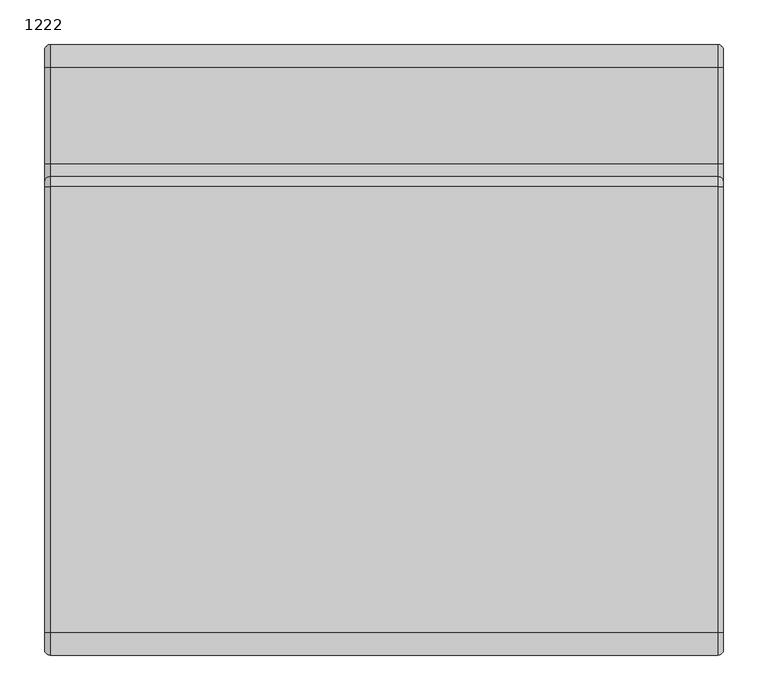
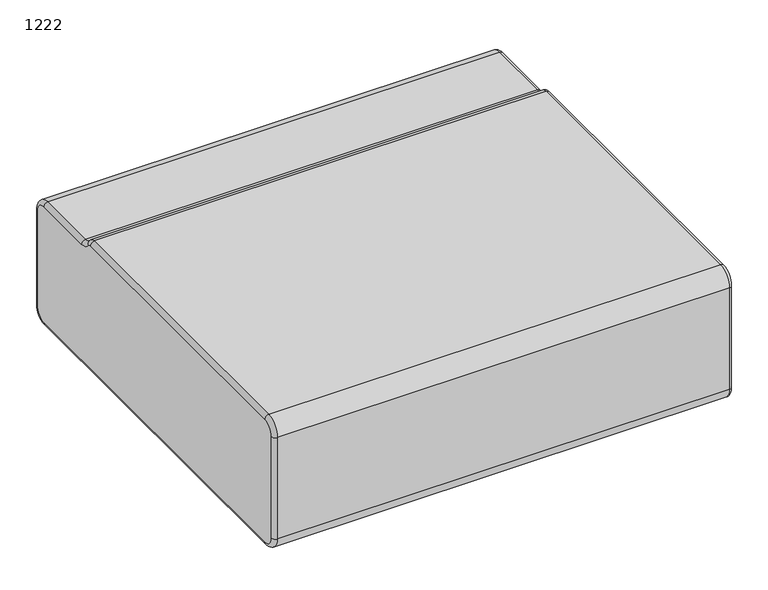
"""IFC4 building model written with IfcOpenShell, lengths in millimetres: furniture geometry, Laguna-Modular-Hideout-ERG : 1222."""

from ifc_helpers import new_model, si_unit, point, frame, origin, place, context, project, spatial, polyline, circle_curve, ellipse_curve, trimmed, source, transform, mapped, element, save
from ifc_brep_helpers import plane_surface, cylinder_surface, revolved_surface, advanced_brep


def furniture_1222_0b3f2822(model_context):
    return source(origin(), model_context, "Body", "AdvancedBrep", [
        advanced_brep(
        [(-4618.2921763, 1208.7558502, 203.2), (-4624.6421763, 1208.7558502, 209.55), (-4624.6421763, 1227.8058502, 228.6), (-4618.2921763, 1234.1558502, 228.6), (-4624.6421763, 1227.8058502, 393.7), (-4618.2921763, 1234.1558502, 393.7), (-4624.6421763, 1208.7558502, 412.75), (-4618.2921763, 1208.7558502, 419.1), (-4624.6421763, 1100.3633388, 412.75), (-4618.2921763, 1100.3633388, 419.1), (-4624.6421763, 1081.0629451, 422.2976649), (-4618.2921763, 1086.1103079, 426.1507973), (-4624.6421763, 1074.6905694, 425.45), (-4618.2921763, 1074.6905694, 431.8), (-4624.6421763, 573.7558502, 425.45), (-4618.2921763, 573.7558502, 431.8), (-4624.6421763, 554.7058502, 406.4), (-4618.2921763, 548.3558502, 406.4), (-4624.6421763, 554.7058502, 228.6), (-4618.2921763, 548.3558502, 228.6), (-4624.6421763, 573.7558502, 209.55), (-4618.2921763, 573.7558502, 203.2), (-3868.9921763, 1074.6905694, 431.8), (-3868.9921763, 573.7558502, 431.8), (-3868.9921763, 548.3558502, 406.4), (-3868.9921763, 548.3558502, 228.6), (-3868.9921763, 573.7558502, 203.2), (-3868.9921763, 1208.7558502, 203.2), (-3868.9921763, 1234.1558502, 228.6), (-3868.9921763, 1234.1558502, 393.7), (-3868.9921763, 1208.7558502, 419.1), (-3868.9921763, 1100.3633388, 419.1), (-3868.9921763, 1086.1103079, 426.1507973), (-3862.6421763, 1208.7558502, 209.55), (-3862.6421763, 1227.8058502, 228.6), (-3862.6421763, 1227.8058502, 393.7), (-3862.6421763, 1208.7558502, 412.75), (-3862.6421763, 1100.3633388, 412.75), (-3862.6421763, 1081.0629451, 422.2976649), (-3862.6421763, 1074.6905694, 425.45), (-3862.6421763, 573.7558502, 425.45), (-3862.6421763, 554.7058502, 406.4), (-3862.6421763, 554.7058502, 228.6), (-3862.6421763, 573.7558502, 209.55)],
        [
            (0, 1, circle_curve(frame((-4618.2921763, 1208.7558502, 209.55), z_axis=(0.0, 1.0, 0.0), x_axis=(0.0, 0.0, 1.0)), 6.35)),
            (1, 2, circle_curve(frame((-4624.6421763, 1208.7558502, 228.6), z_axis=(1.0, 0.0, 0.0), x_axis=(0.0, 0.0, -1.0)), 19.05)),
            (2, 3, circle_curve(frame((-4618.2921763, 1227.8058502, 228.6), z_axis=(0.0, 0.0, -1.0), x_axis=(0.0, -1.0, 0.0)), 6.35)),
            (3, 0, circle_curve(frame((-4618.2921763, 1208.7558502, 228.6), z_axis=(-1.0, 0.0, 0.0), x_axis=(0.0, 0.0, -1.0)), 25.4)),
            (2, 4),
            (4, 5, circle_curve(frame((-4618.2921763, 1227.8058502, 393.7), z_axis=(0.0, 0.0, -1.0), x_axis=(0.0, -1.0, 0.0)), 6.35)),
            (5, 3),
            (4, 6, circle_curve(frame((-4624.6421763, 1208.7558502, 393.7), z_axis=(1.0, 0.0, 0.0), x_axis=(0.0, 1.0, 0.0)), 19.05)),
            (6, 7, circle_curve(frame((-4618.2921763, 1208.7558502, 412.75), z_axis=(0.0, 1.0, 0.0), x_axis=(0.0, 0.0, -1.0)), 6.35)),
            (7, 5, circle_curve(frame((-4618.2921763, 1208.7558502, 393.7), z_axis=(-1.0, 0.0, 0.0), x_axis=(0.0, 1.0, 0.0)), 25.4)),
            (6, 8),
            (8, 9, circle_curve(frame((-4618.2921763, 1100.3633388, 412.75), z_axis=(0.0, 1.0, 0.0), x_axis=(0.0, 0.0, -1.0)), 6.35)),
            (9, 7),
            (8, 10, circle_curve(frame((-4624.6421763, 1100.3633388, 437.0314921), z_axis=(-1.0, 0.0, 0.0), x_axis=(0.0, 0.0, -1.0)), 24.2814921)),
            (10, 11, circle_curve(frame((-4618.2921763, 1081.0629451, 422.2976649), z_axis=(0.0, 0.6067924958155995, -0.7948602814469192), x_axis=(0.0, -0.7948602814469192, -0.6067924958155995)), 6.35)),
            (11, 9, circle_curve(frame((-4618.2921763, 1100.3633388, 437.0314921), z_axis=(1.0, 0.0, 0.0), x_axis=(0.0, 0.0, -1.0)), 17.9314921)),
            (10, 12, circle_curve(frame((-4624.6421763, 1074.6905694, 417.4330241), z_axis=(1.0, 0.0, 0.0), x_axis=(0.0, 0.7948602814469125, 0.6067924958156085)), 8.0169759)),
            (12, 13, circle_curve(frame((-4618.2921763, 1074.6905694, 425.45), z_axis=(0.0, 1.0, 0.0), x_axis=(0.0, 0.0, -1.0)), 6.35)),
            (13, 11, circle_curve(frame((-4618.2921763, 1074.6905694, 417.4330241), z_axis=(-1.0, 0.0, 0.0), x_axis=(0.0, 0.7948602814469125, 0.6067924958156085)), 14.3669759)),
            (12, 14),
            (14, 15, circle_curve(frame((-4618.2921763, 573.7558502, 425.45), z_axis=(0.0, 1.0, 0.0), x_axis=(0.0, 0.0, -1.0)), 6.35)),
            (15, 13),
            (14, 16, circle_curve(frame((-4624.6421763, 573.7558502, 406.4), z_axis=(1.0, 0.0, 0.0), x_axis=(0.0, 0.0, 1.0)), 19.05)),
            (16, 17, circle_curve(frame((-4618.2921763, 554.7058502, 406.4), z_axis=(0.0, 0.0, 1.0), x_axis=(0.0, 1.0, 0.0)), 6.35)),
            (17, 15, circle_curve(frame((-4618.2921763, 573.7558502, 406.4), z_axis=(-1.0, 0.0, 0.0), x_axis=(0.0, 0.0, 1.0)), 25.4)),
            (16, 18),
            (18, 19, circle_curve(frame((-4618.2921763, 554.7058502, 228.6), z_axis=(0.0, 0.0, 1.0), x_axis=(0.0, 1.0, 0.0)), 6.35)),
            (19, 17),
            (18, 20, circle_curve(frame((-4624.6421763, 573.7558502, 228.6), z_axis=(1.0, 0.0, 0.0), x_axis=(0.0, -1.0, 0.0)), 19.05)),
            (20, 21, circle_curve(frame((-4618.2921763, 573.7558502, 209.55), z_axis=(0.0, -1.0, 0.0), x_axis=(0.0, 0.0, 1.0)), 6.35)),
            (21, 19, circle_curve(frame((-4618.2921763, 573.7558502, 228.6), z_axis=(-1.0, 0.0, 0.0), x_axis=(0.0, -1.0, 0.0)), 25.4)),
            (0, 21),
            (20, 1),
            (22, 13),
            (15, 23),
            (23, 22),
            (17, 24),
            (24, 23, circle_curve(frame((-3868.9921763, 573.7558502, 406.4), z_axis=(-1.0, 0.0, 0.0), x_axis=(0.0, 1.0, 0.0)), 25.4)),
            (19, 25),
            (25, 24),
            (21, 26),
            (26, 25, circle_curve(frame((-3868.9921763, 573.7558502, 228.6), z_axis=(-1.0, 0.0, 0.0), x_axis=(0.0, 1.0, 0.0)), 25.4)),
            (0, 27),
            (27, 26),
            (3, 28),
            (28, 27, circle_curve(frame((-3868.9921763, 1208.7558502, 228.6), z_axis=(-1.0, 0.0, 0.0), x_axis=(0.0, 1.0, 0.0)), 25.4)),
            (5, 29),
            (29, 28),
            (7, 30),
            (30, 29, circle_curve(frame((-3868.9921763, 1208.7558502, 393.7), z_axis=(-1.0, 0.0, 0.0), x_axis=(0.0, 1.0, 0.0)), 25.4)),
            (9, 31),
            (31, 30),
            (11, 32),
            (32, 31, circle_curve(frame((-3868.9921763, 1100.3633388, 437.0314921), z_axis=(1.0, 0.0, 0.0), x_axis=(0.0, 1.0, 0.0)), 17.9314921)),
            (22, 32, circle_curve(frame((-3868.9921763, 1074.6905694, 417.4330241), z_axis=(-1.0, 0.0, 0.0), x_axis=(0.0, 1.0, 0.0)), 14.3669759)),
            (33, 27, circle_curve(frame((-3868.9921763, 1208.7558502, 209.55), z_axis=(0.0, 1.0, 0.0), x_axis=(0.0, 0.0, 1.0)), 6.35)),
            (28, 34, circle_curve(frame((-3868.9921763, 1227.8058502, 228.6), z_axis=(0.0, 0.0, -1.0), x_axis=(0.0, -1.0, 0.0)), 6.35)),
            (34, 33, circle_curve(frame((-3862.6421763, 1208.7558502, 228.6), z_axis=(-1.0, 0.0, 0.0), x_axis=(0.0, 0.0, -1.0)), 19.05)),
            (29, 35, circle_curve(frame((-3868.9921763, 1227.8058502, 393.7), z_axis=(0.0, 0.0, -1.0), x_axis=(0.0, -1.0, 0.0)), 6.35)),
            (35, 34),
            (30, 36, circle_curve(frame((-3868.9921763, 1208.7558502, 412.75), z_axis=(0.0, 1.0, 0.0), x_axis=(0.0, 0.0, -1.0)), 6.35)),
            (36, 35, circle_curve(frame((-3862.6421763, 1208.7558502, 393.7), z_axis=(-1.0, 0.0, 0.0), x_axis=(0.0, 1.0, 0.0)), 19.05)),
            (31, 37, circle_curve(frame((-3868.9921763, 1100.3633388, 412.75), z_axis=(0.0, 1.0, 0.0), x_axis=(0.0, 0.0, -1.0)), 6.35)),
            (37, 36),
            (32, 38, circle_curve(frame((-3868.9921763, 1081.0629451, 422.2976649), z_axis=(0.0, 0.606792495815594, -0.7948602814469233), x_axis=(0.0, -0.7948602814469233, -0.606792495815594)), 6.35)),
            (38, 37, circle_curve(frame((-3862.6421763, 1100.3633388, 437.0314921), z_axis=(1.0, 0.0, 0.0), x_axis=(0.0, 0.0, -1.0)), 24.2814921)),
            (22, 39, circle_curve(frame((-3868.9921763, 1074.6905694, 425.45), z_axis=(0.0, 1.0, 0.0), x_axis=(0.0, 0.0, -1.0)), 6.35)),
            (39, 38, circle_curve(frame((-3862.6421763, 1074.6905694, 417.4330241), z_axis=(-1.0, 0.0, 0.0), x_axis=(0.0, 0.7948602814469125, 0.6067924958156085)), 8.0169759)),
            (23, 40, circle_curve(frame((-3868.9921763, 573.7558502, 425.45), z_axis=(0.0, 1.0, 0.0), x_axis=(0.0, 0.0, -1.0)), 6.35)),
            (40, 39),
            (24, 41, circle_curve(frame((-3868.9921763, 554.7058502, 406.4), z_axis=(0.0, 0.0, 1.0), x_axis=(0.0, 1.0, 0.0)), 6.35)),
            (41, 40, circle_curve(frame((-3862.6421763, 573.7558502, 406.4), z_axis=(-1.0, 0.0, 0.0), x_axis=(0.0, 0.0, 1.0)), 19.05)),
            (25, 42, circle_curve(frame((-3868.9921763, 554.7058502, 228.6), z_axis=(0.0, 0.0, 1.0), x_axis=(0.0, 1.0, 0.0)), 6.35)),
            (42, 41),
            (26, 43, circle_curve(frame((-3868.9921763, 573.7558502, 209.55), z_axis=(0.0, -1.0, 0.0), x_axis=(0.0, 0.0, 1.0)), 6.35)),
            (43, 42, circle_curve(frame((-3862.6421763, 573.7558502, 228.6), z_axis=(-1.0, 0.0, 0.0), x_axis=(0.0, -1.0, 0.0)), 19.05)),
            (33, 43),
        ],
        [
            revolved_surface(trimmed(ellipse_curve(frame((-4618.2921763, 1208.7558502, 209.55), z_axis=(0.0, -1.0, 0.0), x_axis=(0.0, 0.0, 1.0)), 6.35, 6.35), [point((-4624.6421763, 1208.7558502, 209.55))], [point((-4618.2921763, 1208.7558502, 203.2))], True, "CARTESIAN"), (-4618.2921763, 1208.7558502, 228.6), (1.0, 0.0, 0.0)),
            cylinder_surface(frame((-4618.2921763, 1227.8058502, 228.6), z_axis=(0.0, 0.0, -1.0), x_axis=(0.0, -1.0, 0.0)), 6.35),
            revolved_surface(trimmed(ellipse_curve(frame((-4618.2921763, 1227.8058502, 393.7), z_axis=(0.0, 0.0, -1.0), x_axis=(0.0, -1.0, 0.0)), 6.35, 6.35), [point((-4624.6421763, 1227.8058502, 393.7))], [point((-4618.2921763, 1234.1558502, 393.7))], True, "CARTESIAN"), (-4618.2921763, 1208.7558502, 393.7), (1.0, 0.0, 0.0)),
            cylinder_surface(frame((-4618.2921763, 1208.7558502, 412.75), z_axis=(0.0, 1.0, 0.0), x_axis=(0.0, 0.0, -1.0)), 6.35),
            revolved_surface(trimmed(ellipse_curve(frame((-4618.2921763, 1100.3633388, 412.75), z_axis=(0.0, 1.0, 0.0), x_axis=(0.0, 0.0, -1.0)), 6.35, 6.35), [point((-4624.6421763, 1100.3633388, 412.75))], [point((-4618.2921763, 1100.3633388, 419.1))], True, "CARTESIAN"), (-4618.2921763, 1100.3633388, 437.0314921), (-1.0, 0.0, 0.0)),
            revolved_surface(trimmed(ellipse_curve(frame((-4618.2921763, 1081.0629451, 422.2976649), z_axis=(0.0, 0.6067924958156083, -0.7948602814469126), x_axis=(0.0, -0.7948602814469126, -0.6067924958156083)), 6.35, 6.35), [point((-4624.6421763, 1081.0629451, 422.2976649))], [point((-4618.2921763, 1086.1103079, 426.1507973))], True, "CARTESIAN"), (-4618.2921763, 1074.6905694, 417.4330241), (1.0, 0.0, 0.0)),
            cylinder_surface(frame((-4618.2921763, 1074.6905694, 425.45), z_axis=(0.0, 1.0, 0.0), x_axis=(0.0, 0.0, -1.0)), 6.35),
            revolved_surface(trimmed(ellipse_curve(frame((-4618.2921763, 573.7558502, 425.45), z_axis=(0.0, 1.0, 0.0), x_axis=(0.0, 0.0, -1.0)), 6.35, 6.35), [point((-4624.6421763, 573.7558502, 425.45))], [point((-4618.2921763, 573.7558502, 431.8))], True, "CARTESIAN"), (-4618.2921763, 573.7558502, 406.4), (1.0, 0.0, 0.0)),
            cylinder_surface(frame((-4618.2921763, 554.7058502, 406.4), z_axis=(0.0, 0.0, 1.0), x_axis=(0.0, 1.0, 0.0)), 6.35),
            revolved_surface(trimmed(ellipse_curve(frame((-4618.2921763, 554.7058502, 228.6), z_axis=(0.0, 0.0, 1.0), x_axis=(0.0, 1.0, 0.0)), 6.35, 6.35), [point((-4624.6421763, 554.7058502, 228.6))], [point((-4618.2921763, 548.3558502, 228.6))], True, "CARTESIAN"), (-4618.2921763, 573.7558502, 228.6), (1.0, 0.0, 0.0)),
            cylinder_surface(frame((-4618.2921763, 573.7558502, 209.55), z_axis=(0.0, -1.0, 0.0), x_axis=(0.0, 0.0, 1.0)), 6.35),
            plane_surface(frame((-3868.9921763, 1074.6905694, 431.8), z_axis=(0.0, 0.0, 1.0), x_axis=(-1.0, 0.0, 0.0))),
            cylinder_surface(frame((-4618.2921763, 573.7558502, 406.4), z_axis=(1.0, 0.0, 0.0), x_axis=(0.0, 1.0, 0.0)), 25.4),
            plane_surface(frame((-3868.9921763, 548.3558502, 406.4), z_axis=(0.0, -1.0, 0.0), x_axis=(-1.0, 0.0, 0.0))),
            cylinder_surface(frame((-4618.2921763, 573.7558502, 228.6), z_axis=(1.0, 0.0, 0.0), x_axis=(0.0, 1.0, 0.0)), 25.4),
            plane_surface(frame((-3868.9921763, 573.7558502, 203.2), z_axis=(0.0, 0.0, -1.0), x_axis=(-1.0, 0.0, 0.0))),
            cylinder_surface(frame((-4618.2921763, 1208.7558502, 228.6), z_axis=(1.0, 0.0, 0.0), x_axis=(0.0, 1.0, 0.0)), 25.4),
            plane_surface(frame((-3868.9921763, 1234.1558502, 228.6), z_axis=(0.0, 1.0, 0.0), x_axis=(-1.0, 0.0, 0.0))),
            cylinder_surface(frame((-4618.2921763, 1208.7558502, 393.7), z_axis=(1.0, 0.0, 0.0), x_axis=(0.0, 1.0, 0.0)), 25.4),
            plane_surface(frame((-3868.9921763, 1208.7558502, 419.1), z_axis=(0.0, 0.0, 1.0), x_axis=(-1.0, 0.0, 0.0))),
            revolved_surface(polyline([(-4618.2921763, 1118.2948309, 437.0314921), (-3868.9921763, 1118.2948309, 437.0314921)]), (-4618.2921763, 1100.3633388, 437.0314921), (-1.0, 0.0, 0.0)),
            cylinder_surface(frame((-4618.2921763, 1074.6905694, 417.4330241), z_axis=(1.0, 0.0, 0.0), x_axis=(0.0, 1.0, 0.0)), 14.3669759),
            revolved_surface(trimmed(ellipse_curve(frame((-3868.9921763, 1208.7558502, 209.55), z_axis=(0.0, -1.0, 0.0), x_axis=(0.0, 0.0, 1.0)), 6.35, 6.35), [point((-3868.9921763, 1208.7558502, 203.2))], [point((-3862.6421763, 1208.7558502, 209.55))], True, "CARTESIAN"), (-3868.9921763, 1208.7558502, 228.6), (1.0, 0.0, 0.0)),
            cylinder_surface(frame((-3868.9921763, 1227.8058502, 228.6), z_axis=(0.0, 0.0, -1.0), x_axis=(0.0, -1.0, 0.0)), 6.35),
            revolved_surface(trimmed(ellipse_curve(frame((-3868.9921763, 1227.8058502, 393.7), z_axis=(0.0, 0.0, -1.0), x_axis=(0.0, -1.0, 0.0)), 6.35, 6.35), [point((-3868.9921763, 1234.1558502, 393.7))], [point((-3862.6421763, 1227.8058502, 393.7))], True, "CARTESIAN"), (-3868.9921763, 1208.7558502, 393.7), (1.0, 0.0, 0.0)),
            cylinder_surface(frame((-3868.9921763, 1208.7558502, 412.75), z_axis=(0.0, 1.0, 0.0), x_axis=(0.0, 0.0, -1.0)), 6.35),
            revolved_surface(trimmed(ellipse_curve(frame((-3868.9921763, 1100.3633388, 412.75), z_axis=(0.0, 1.0, 0.0), x_axis=(0.0, 0.0, -1.0)), 6.35, 6.35), [point((-3868.9921763, 1100.3633388, 419.1))], [point((-3862.6421763, 1100.3633388, 412.75))], True, "CARTESIAN"), (-3868.9921763, 1100.3633388, 437.0314921), (-1.0, 0.0, 0.0)),
            revolved_surface(trimmed(ellipse_curve(frame((-3868.9921763, 1081.0629451, 422.2976649), z_axis=(0.0, 0.6067924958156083, -0.7948602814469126), x_axis=(0.0, -0.7948602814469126, -0.6067924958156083)), 6.35, 6.35), [point((-3868.9921763, 1086.1103079, 426.1507973))], [point((-3862.6421763, 1081.0629451, 422.2976649))], True, "CARTESIAN"), (-3868.9921763, 1074.6905694, 417.4330241), (1.0, 0.0, 0.0)),
            cylinder_surface(frame((-3868.9921763, 1074.6905694, 425.45), z_axis=(0.0, 1.0, 0.0), x_axis=(0.0, 0.0, -1.0)), 6.35),
            revolved_surface(trimmed(ellipse_curve(frame((-3868.9921763, 573.7558502, 425.45), z_axis=(0.0, 1.0, 0.0), x_axis=(0.0, 0.0, -1.0)), 6.35, 6.35), [point((-3868.9921763, 573.7558502, 431.8))], [point((-3862.6421763, 573.7558502, 425.45))], True, "CARTESIAN"), (-3868.9921763, 573.7558502, 406.4), (1.0, 0.0, 0.0)),
            cylinder_surface(frame((-3868.9921763, 554.7058502, 406.4), z_axis=(0.0, 0.0, 1.0), x_axis=(0.0, 1.0, 0.0)), 6.35),
            revolved_surface(trimmed(ellipse_curve(frame((-3868.9921763, 554.7058502, 228.6), z_axis=(0.0, 0.0, 1.0), x_axis=(0.0, 1.0, 0.0)), 6.35, 6.35), [point((-3868.9921763, 548.3558502, 228.6))], [point((-3862.6421763, 554.7058502, 228.6))], True, "CARTESIAN"), (-3868.9921763, 573.7558502, 228.6), (1.0, 0.0, 0.0)),
            cylinder_surface(frame((-3868.9921763, 573.7558502, 209.55), z_axis=(0.0, -1.0, 0.0), x_axis=(0.0, 0.0, 1.0)), 6.35),
            plane_surface(frame((-3862.6421763, 592.8058502, 406.4), z_axis=(1.0, 0.0, 0.0), x_axis=(0.0, 0.0, 1.0))),
            plane_surface(frame((-4624.6421763, 554.7058502, 228.6), z_axis=(-1.0, 0.0, 0.0), x_axis=(0.0, 0.0, 1.0))),
        ],
        [
            (0, [[1, 2, 3, 4]]),
            (1, [[-3, 5, 6, 7]]),
            (2, [[-6, 8, 9, 10]]),
            (3, [[-9, 11, 12, 13]]),
            (4, [[-12, 14, 15, 16]]),
            (5, [[-15, 17, 18, 19]]),
            (6, [[-18, 20, 21, 22]]),
            (7, [[-21, 23, 24, 25]]),
            (8, [[-24, 26, 27, 28]]),
            (9, [[-27, 29, 30, 31]]),
            (10, [[-1, 32, -30, 33]]),
            (11, [[34, -22, 35, 36]]),
            (12, [[-35, -25, 37, 38]]),
            (13, [[-37, -28, 39, 40]]),
            (14, [[-39, -31, 41, 42]]),
            (15, [[-41, -32, 43, 44]]),
            (16, [[-43, -4, 45, 46]]),
            (17, [[-45, -7, 47, 48]]),
            (18, [[-47, -10, 49, 50]]),
            (19, [[-49, -13, 51, 52]]),
            (20, [[-51, -16, 53, 54]]),
            (21, [[-34, 55, -53, -19]]),
            (22, [[56, -46, 57, 58]]),
            (23, [[-57, -48, 59, 60]]),
            (24, [[-59, -50, 61, 62]]),
            (25, [[-61, -52, 63, 64]]),
            (26, [[-63, -54, 65, 66]]),
            (27, [[-65, -55, 67, 68]]),
            (28, [[-67, -36, 69, 70]]),
            (29, [[-69, -38, 71, 72]]),
            (30, [[-71, -40, 73, 74]]),
            (31, [[-73, -42, 75, 76]]),
            (32, [[-56, 77, -75, -44]]),
            (33, [[-58, -60, -62, -64, -66, -68, -70, -72, -74, -76, -77]]),
            (34, [[-2, -33, -29, -26, -23, -20, -17, -14, -11, -8, -5]]),
        ],
    ),
    ])


if __name__ == "__main__":
    model = new_model("IFC4")
    model_context = context("Model", 3, world=origin())
    ifc_project = project(units=[si_unit("LENGTHUNIT", "METRE", prefix="MILLI")], contexts=[model_context])
    site = spatial("IfcSite", under=ifc_project)
    building = spatial("IfcBuilding", under=site)
    placement = place(None, origin())
    furniture_1222_shape = furniture_1222_0b3f2822(model_context)
    element("IfcFurniture", 1, ObjectType="Laguna-Modular-Hideout-ERG : 1222", at=placement, inside=building, context=model_context, shape_type="MappedRepresentation", body=[
        mapped(furniture_1222_shape, transform((0.0, 0.0, 0.0), x_axis=(1.0, 0.0, 0.0), y_axis=(0.0, 1.0, 0.0), z_axis=(0.0, 0.0, 1.0))),
    ])
    save(model, "model.ifc")
